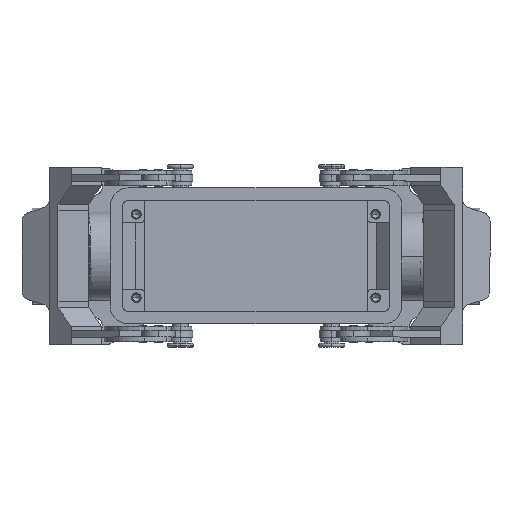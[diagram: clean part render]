
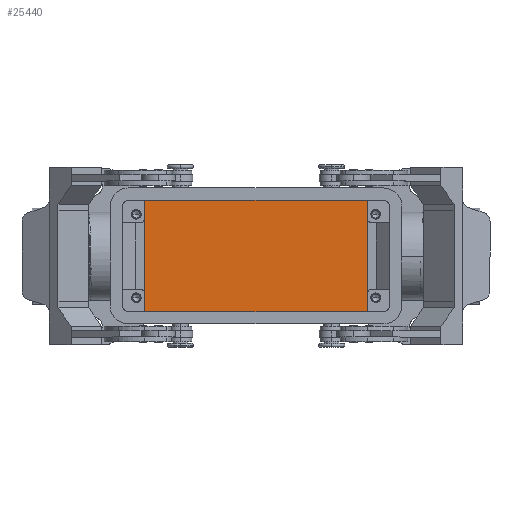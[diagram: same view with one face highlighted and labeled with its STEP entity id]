
A CAD part, top view. The second image highlights one B-rep face of the part: STEP entity #25440.
In plain terms, the highlighted planar face has unit normal (0, 0, 1).
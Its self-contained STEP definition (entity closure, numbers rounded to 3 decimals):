
#25298 = VERTEX_POINT ( 'NONE', #37621 ) ;
#25300 = EDGE_CURVE ( 'NONE', #25301, #25298, #37620, .T. ) ;
#25301 = VERTEX_POINT ( 'NONE', #37616 ) ;
#25326 = VERTEX_POINT ( 'NONE', #37820 ) ;
#25328 = EDGE_CURVE ( 'NONE', #25326, #25298, #37819, .T. ) ;
#25387 = ORIENTED_EDGE ( 'NONE', *, *, #25328, .F. ) ;
#25388 = ORIENTED_EDGE ( 'NONE', *, *, #25389, .T. ) ;
#25389 = EDGE_CURVE ( 'NONE', #25326, #25390, #38165, .T. ) ;
#25390 = VERTEX_POINT ( 'NONE', #38161 ) ;
#25391 = ORIENTED_EDGE ( 'NONE', *, *, #25392, .F. ) ;
#25392 = EDGE_CURVE ( 'NONE', #25301, #25390, #38232, .T. ) ;
#25393 = ORIENTED_EDGE ( 'NONE', *, *, #25300, .T. ) ;
#25440 = ADVANCED_FACE ( 'NONE', ( #38361 ), #38360, .T. ) ;
#25441 = EDGE_LOOP ( 'NONE', ( #25387, #25388, #25391, #25393 ) ) ;
#37616 = CARTESIAN_POINT ( 'NONE',  ( 36., -18.75, -30. ) ) ;
#37617 = DIRECTION ( 'NONE',  ( 0., 1., 0. ) ) ;
#37618 = VECTOR ( 'NONE', #37617, 1000. ) ;
#37619 = CARTESIAN_POINT ( 'NONE',  ( 36., 0., -30. ) ) ;
#37620 = LINE ( 'NONE', #37619, #37618 ) ;
#37621 = CARTESIAN_POINT ( 'NONE',  ( 36., 18.75, -30. ) ) ;
#37816 = DIRECTION ( 'NONE',  ( 1., 0., 0. ) ) ;
#37817 = VECTOR ( 'NONE', #37816, 1000. ) ;
#37818 = CARTESIAN_POINT ( 'NONE',  ( -41., 18.75, -30. ) ) ;
#37819 = LINE ( 'NONE', #37818, #37817 ) ;
#37820 = CARTESIAN_POINT ( 'NONE',  ( -36., 18.75, -30. ) ) ;
#38161 = CARTESIAN_POINT ( 'NONE',  ( -36., -18.75, -30. ) ) ;
#38162 = DIRECTION ( 'NONE',  ( 0., -1., 0. ) ) ;
#38163 = VECTOR ( 'NONE', #38162, 1000. ) ;
#38164 = CARTESIAN_POINT ( 'NONE',  ( -36., 0., -30. ) ) ;
#38165 = LINE ( 'NONE', #38164, #38163 ) ;
#38229 = DIRECTION ( 'NONE',  ( -1., 0., 0. ) ) ;
#38230 = VECTOR ( 'NONE', #38229, 1000. ) ;
#38231 = CARTESIAN_POINT ( 'NONE',  ( 41., -18.75, -30. ) ) ;
#38232 = LINE ( 'NONE', #38231, #38230 ) ;
#38355 = DIRECTION ( 'NONE',  ( 1., 0., 0. ) ) ;
#38356 = DIRECTION ( 'NONE',  ( 0., 0., 1. ) ) ;
#38357 = CARTESIAN_POINT ( 'NONE',  ( 0., 0., -30. ) ) ;
#38359 = AXIS2_PLACEMENT_3D ( 'NONE', #38357, #38356, #38355 ) ;
#38360 = PLANE ( 'NONE',  #38359 ) ;
#38361 = FACE_OUTER_BOUND ( 'NONE', #25441, .T. ) ;
